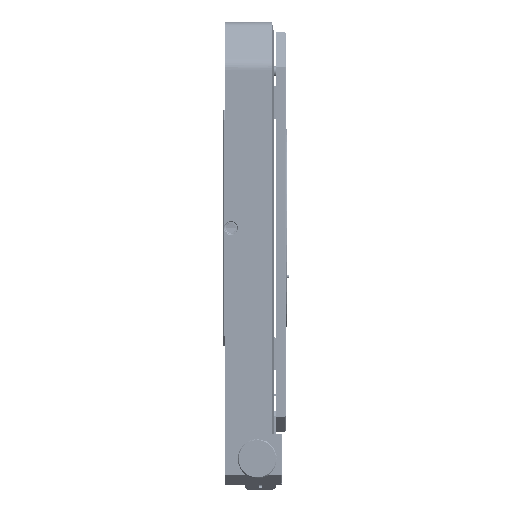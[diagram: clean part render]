
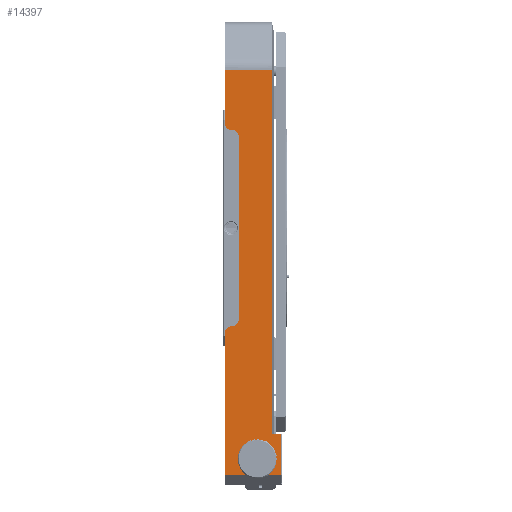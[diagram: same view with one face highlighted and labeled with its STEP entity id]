
A CAD part, left-side view. The second image highlights one B-rep face of the part: STEP entity #14397.
In plain terms, the highlighted planar face has unit normal (-1, 0, 0).
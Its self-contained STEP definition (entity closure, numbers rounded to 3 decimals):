
#1645=DIRECTION('',(0.,1.,0.));
#1646=VECTOR('',#1645,4.5);
#1647=CARTESIAN_POINT('',(-113.,4.5,-105.));
#1648=LINE('',#1647,#1646);
#4951=CARTESIAN_POINT('',(-113.,16.5,-117.5));
#4952=DIRECTION('',(-1.,0.,0.));
#4953=DIRECTION('',(0.,0.,-1.));
#4954=AXIS2_PLACEMENT_3D('',#4951,#4952,#4953);
#4956=CARTESIAN_POINT('',(-113.,16.5,-117.5));
#4957=DIRECTION('',(-1.,0.,0.));
#4958=DIRECTION('',(0.,0.,1.));
#4959=AXIS2_PLACEMENT_3D('',#4956,#4957,#4958);
#4961=DIRECTION('',(0.,0.,1.));
#4962=VECTOR('',#4961,21.);
#4963=CARTESIAN_POINT('',(-113.,4.5,-126.));
#4964=LINE('',#4963,#4962);
#4965=DIRECTION('',(0.,1.,0.));
#4966=VECTOR('',#4965,28.5);
#4967=CARTESIAN_POINT('',(-113.,4.5,-126.));
#4968=LINE('',#4967,#4966);
#4969=DIRECTION('',(0.,0.,1.));
#4970=VECTOR('',#4969,72.5);
#4971=CARTESIAN_POINT('',(-113.,33.,-126.));
#4972=LINE('',#4971,#4970);
#4973=CARTESIAN_POINT('',(-113.,29.5,-53.5));
#4974=DIRECTION('',(-1.,0.,0.));
#4975=DIRECTION('',(0.,0.,1.));
#4976=AXIS2_PLACEMENT_3D('',#4973,#4974,#4975);
#4978=DIRECTION('',(0.,-1.,0.));
#4979=VECTOR('',#4978,0.1);
#4980=CARTESIAN_POINT('',(-113.,29.5,-50.));
#4981=LINE('',#4980,#4979);
#4982=DIRECTION('',(0.,0.,1.));
#4983=VECTOR('',#4982,93.);
#4984=CARTESIAN_POINT('',(-113.,25.9,-46.5));
#4985=LINE('',#4984,#4983);
#4986=DIRECTION('',(0.,-1.,0.));
#4987=VECTOR('',#4986,0.1);
#4988=CARTESIAN_POINT('',(-113.,29.5,50.));
#4989=LINE('',#4988,#4987);
#4990=CARTESIAN_POINT('',(-113.,29.5,53.5));
#4991=DIRECTION('',(-1.,0.,0.));
#4992=DIRECTION('',(0.,1.,0.));
#4993=AXIS2_PLACEMENT_3D('',#4990,#4991,#4992);
#4995=DIRECTION('',(0.,0.,1.));
#4996=VECTOR('',#4995,27.186);
#4997=CARTESIAN_POINT('',(-113.,33.,53.5));
#4998=LINE('',#4997,#4996);
#4999=DIRECTION('',(0.,1.,0.));
#5000=VECTOR('',#4999,24.);
#5001=CARTESIAN_POINT('',(-113.,9.,80.686));
#5002=LINE('',#5001,#5000);
#5003=DIRECTION('',(0.,0.,-1.));
#5004=VECTOR('',#5003,185.686);
#5005=CARTESIAN_POINT('',(-113.,9.,80.686));
#5006=LINE('',#5005,#5004);
#5367=CARTESIAN_POINT('',(-113.,29.4,-46.5));
#5368=DIRECTION('',(1.,0.,0.));
#5369=DIRECTION('',(0.,-1.,0.));
#5370=AXIS2_PLACEMENT_3D('',#5367,#5368,#5369);
#5385=CARTESIAN_POINT('',(-113.,29.4,46.5));
#5386=DIRECTION('',(1.,0.,0.));
#5387=DIRECTION('',(0.,0.,1.));
#5388=AXIS2_PLACEMENT_3D('',#5385,#5386,#5387);
#5460=CARTESIAN_POINT('',(-113.,9.,80.686));
#6341=CARTESIAN_POINT('',(-113.,16.5,-125.5));
#6342=VERTEX_POINT('',#6341);
#6343=CARTESIAN_POINT('',(-113.,16.5,-109.5));
#6344=VERTEX_POINT('',#6343);
#6415=CARTESIAN_POINT('',(-113.,9.,-105.));
#6416=VERTEX_POINT('',#6415);
#7209=CARTESIAN_POINT('',(-113.,33.,80.686));
#7211=VERTEX_POINT('',#7209);
#7215=VERTEX_POINT('',#5460);
#7227=CARTESIAN_POINT('',(-113.,33.,-126.));
#7229=VERTEX_POINT('',#7227);
#7784=CARTESIAN_POINT('',(-113.,29.4,50.));
#7786=VERTEX_POINT('',#7784);
#7788=CARTESIAN_POINT('',(-113.,25.9,46.5));
#7790=VERTEX_POINT('',#7788);
#7792=CARTESIAN_POINT('',(-113.,25.9,-46.5));
#7794=VERTEX_POINT('',#7792);
#7796=CARTESIAN_POINT('',(-113.,29.4,-50.));
#7798=VERTEX_POINT('',#7796);
#7800=CARTESIAN_POINT('',(-113.,33.,53.5));
#7801=CARTESIAN_POINT('',(-113.,29.5,50.));
#7802=VERTEX_POINT('',#7800);
#7803=VERTEX_POINT('',#7801);
#7812=CARTESIAN_POINT('',(-113.,29.5,-50.));
#7813=VERTEX_POINT('',#7812);
#7814=CARTESIAN_POINT('',(-113.,33.,-53.5));
#7815=VERTEX_POINT('',#7814);
#7836=CARTESIAN_POINT('',(-113.,4.5,-126.));
#7837=VERTEX_POINT('',#7836);
#7840=CARTESIAN_POINT('',(-113.,4.5,-105.));
#7842=VERTEX_POINT('',#7840);
#14361=CARTESIAN_POINT('',(-113.,33.,-130.));
#14362=DIRECTION('',(-1.,0.,0.));
#14363=DIRECTION('',(0.,0.,1.));
#14364=AXIS2_PLACEMENT_3D('',#14361,#14362,#14363);
#14365=PLANE('',#14364);
#14367=ORIENTED_EDGE('',*,*,#14366,.F.);
#14368=ORIENTED_EDGE('',*,*,#9771,.T.);
#14369=ORIENTED_EDGE('',*,*,#8570,.T.);
#14371=ORIENTED_EDGE('',*,*,#14370,.F.);
#14373=ORIENTED_EDGE('',*,*,#14372,.T.);
#14375=ORIENTED_EDGE('',*,*,#14374,.F.);
#14377=ORIENTED_EDGE('',*,*,#14376,.T.);
#14379=ORIENTED_EDGE('',*,*,#14378,.F.);
#14381=ORIENTED_EDGE('',*,*,#14380,.F.);
#14382=ORIENTED_EDGE('',*,*,#14352,.F.);
#14383=ORIENTED_EDGE('',*,*,#8558,.T.);
#14385=ORIENTED_EDGE('',*,*,#14384,.F.);
#14387=ORIENTED_EDGE('',*,*,#14386,.T.);
#14388=ORIENTED_EDGE('',*,*,#9886,.F.);
#14389=EDGE_LOOP('',(#14367,#14368,#14369,#14371,#14373,#14375,#14377,#14379,
#14381,#14382,#14383,#14385,#14387,#14388));
#14390=FACE_OUTER_BOUND('',#14389,.F.);
#14392=ORIENTED_EDGE('',*,*,#14391,.T.);
#14394=ORIENTED_EDGE('',*,*,#14393,.T.);
#14395=EDGE_LOOP('',(#14392,#14394));
#14396=FACE_BOUND('',#14395,.F.);
#14397=ADVANCED_FACE('',(#14390,#14396),#14365,.T.);
#4955=CIRCLE('',#4954,8.);
#4960=CIRCLE('',#4959,8.);
#4977=CIRCLE('',#4976,3.5);
#4994=CIRCLE('',#4993,3.5);
#5371=CIRCLE('',#5370,3.5);
#5389=CIRCLE('',#5388,3.5);
#8558=EDGE_CURVE('',#7802,#7211,#4998,.T.);
#8570=EDGE_CURVE('',#7229,#7815,#4972,.T.);
#9771=EDGE_CURVE('',#7837,#7229,#4968,.T.);
#9886=EDGE_CURVE('',#7842,#6416,#1648,.T.);
#14352=EDGE_CURVE('',#7802,#7803,#4994,.T.);
#14366=EDGE_CURVE('',#7837,#7842,#4964,.T.);
#14370=EDGE_CURVE('',#7813,#7815,#4977,.T.);
#14372=EDGE_CURVE('',#7813,#7798,#4981,.T.);
#14374=EDGE_CURVE('',#7794,#7798,#5371,.T.);
#14376=EDGE_CURVE('',#7794,#7790,#4985,.T.);
#14378=EDGE_CURVE('',#7786,#7790,#5389,.T.);
#14380=EDGE_CURVE('',#7803,#7786,#4989,.T.);
#14384=EDGE_CURVE('',#7215,#7211,#5002,.T.);
#14386=EDGE_CURVE('',#7215,#6416,#5006,.T.);
#14391=EDGE_CURVE('',#6342,#6344,#4955,.T.);
#14393=EDGE_CURVE('',#6344,#6342,#4960,.T.);
